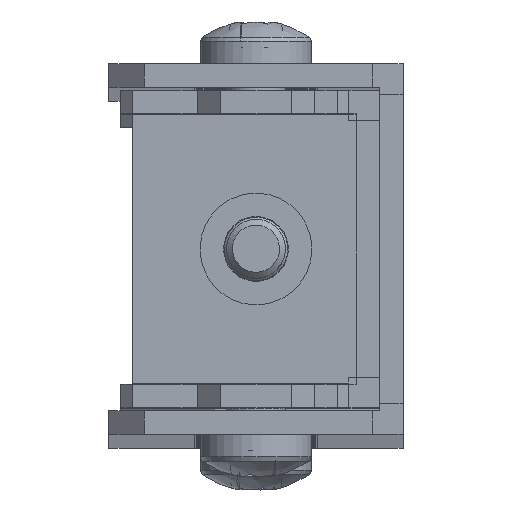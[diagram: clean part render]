
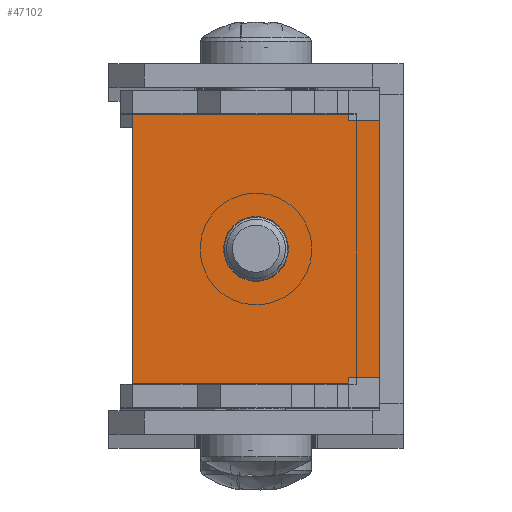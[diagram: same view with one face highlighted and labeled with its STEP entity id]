
A CAD part, top view. The second image highlights one B-rep face of the part: STEP entity #47102.
In plain terms, the highlighted planar face has unit normal (0, 0, 1) as drawn and (0, -1, 0) by its records, which use the part's own axes.
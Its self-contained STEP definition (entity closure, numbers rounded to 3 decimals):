
#46181 = VERTEX_POINT('',#46182);
#46182 = CARTESIAN_POINT('',(-10.9,-16.5,0.));
#46188 = EDGE_CURVE('',#46189,#46181,#46191,.T.);
#46189 = VERTEX_POINT('',#46190);
#46190 = CARTESIAN_POINT('',(10.9,-16.5,0.));
#46191 = LINE('',#46192,#46193);
#46192 = CARTESIAN_POINT('',(0.,-16.5,-0.));
#46193 = VECTOR('',#46194,1.);
#46194 = DIRECTION('',(-1.,0.,0.));
#47043 = VERTEX_POINT('',#47044);
#47044 = CARTESIAN_POINT('',(10.9,-16.5,-2.6));
#47059 = EDGE_CURVE('',#47043,#46189,#47060,.T.);
#47060 = LINE('',#47061,#47062);
#47061 = CARTESIAN_POINT('',(10.9,-16.5,-2.6));
#47062 = VECTOR('',#47063,1.);
#47063 = DIRECTION('',(-0.,0.,1.));
#47083 = VERTEX_POINT('',#47084);
#47084 = CARTESIAN_POINT('',(-10.9,-16.5,-2.6));
#47090 = EDGE_CURVE('',#47083,#46181,#47091,.T.);
#47091 = LINE('',#47092,#47093);
#47092 = CARTESIAN_POINT('',(-10.9,-16.5,0.));
#47093 = VECTOR('',#47094,1.);
#47094 = DIRECTION('',(0.,0.,1.));
#47102 = ADVANCED_FACE('',(#47103,#47114),#47157,.T.);
#47103 = FACE_BOUND('',#47104,.T.);
#47104 = EDGE_LOOP('',(#47105));
#47105 = ORIENTED_EDGE('',*,*,#47106,.T.);
#47106 = EDGE_CURVE('',#47107,#47107,#47109,.T.);
#47107 = VERTEX_POINT('',#47108);
#47108 = CARTESIAN_POINT('',(0.,-16.5,-7.75));
#47109 = CIRCLE('',#47110,2.75);
#47110 = AXIS2_PLACEMENT_3D('',#47111,#47112,#47113);
#47111 = CARTESIAN_POINT('',(0.,-16.5,-10.5));
#47112 = DIRECTION('',(0.,1.,0.));
#47113 = DIRECTION('',(0.,0.,1.));
#47114 = FACE_BOUND('',#47115,.T.);
#47115 = EDGE_LOOP('',(#47116,#47126,#47134,#47140,#47141,#47142,#47143,
    #47151));
#47116 = ORIENTED_EDGE('',*,*,#47117,.F.);
#47117 = EDGE_CURVE('',#47118,#47120,#47122,.T.);
#47118 = VERTEX_POINT('',#47119);
#47119 = CARTESIAN_POINT('',(11.4,-16.5,-21.));
#47120 = VERTEX_POINT('',#47121);
#47121 = CARTESIAN_POINT('',(-11.4,-16.5,-21.));
#47122 = LINE('',#47123,#47124);
#47123 = CARTESIAN_POINT('',(-10.9,-16.5,-21.));
#47124 = VECTOR('',#47125,1.);
#47125 = DIRECTION('',(-1.,0.,0.));
#47126 = ORIENTED_EDGE('',*,*,#47127,.F.);
#47127 = EDGE_CURVE('',#47128,#47118,#47130,.T.);
#47128 = VERTEX_POINT('',#47129);
#47129 = CARTESIAN_POINT('',(11.4,-16.5,-2.6));
#47130 = LINE('',#47131,#47132);
#47131 = CARTESIAN_POINT('',(11.4,-16.5,-2.6));
#47132 = VECTOR('',#47133,1.);
#47133 = DIRECTION('',(0.,0.,-1.));
#47134 = ORIENTED_EDGE('',*,*,#47135,.F.);
#47135 = EDGE_CURVE('',#47043,#47128,#47136,.T.);
#47136 = LINE('',#47137,#47138);
#47137 = CARTESIAN_POINT('',(10.9,-16.5,-2.6));
#47138 = VECTOR('',#47139,1.);
#47139 = DIRECTION('',(1.,0.,0.));
#47140 = ORIENTED_EDGE('',*,*,#47059,.T.);
#47141 = ORIENTED_EDGE('',*,*,#46188,.T.);
#47142 = ORIENTED_EDGE('',*,*,#47090,.F.);
#47143 = ORIENTED_EDGE('',*,*,#47144,.T.);
#47144 = EDGE_CURVE('',#47083,#47145,#47147,.T.);
#47145 = VERTEX_POINT('',#47146);
#47146 = CARTESIAN_POINT('',(-11.4,-16.5,-2.6));
#47147 = LINE('',#47148,#47149);
#47148 = CARTESIAN_POINT('',(-10.9,-16.5,-2.6));
#47149 = VECTOR('',#47150,1.);
#47150 = DIRECTION('',(-1.,0.,0.));
#47151 = ORIENTED_EDGE('',*,*,#47152,.T.);
#47152 = EDGE_CURVE('',#47145,#47120,#47153,.T.);
#47153 = LINE('',#47154,#47155);
#47154 = CARTESIAN_POINT('',(-11.4,-16.5,-2.6));
#47155 = VECTOR('',#47156,1.);
#47156 = DIRECTION('',(0.,0.,-1.));
#47157 = PLANE('',#47158);
#47158 = AXIS2_PLACEMENT_3D('',#47159,#47160,#47161);
#47159 = CARTESIAN_POINT('',(0.,-16.5,
    0.));
#47160 = DIRECTION('',(0.,-1.,0.));
#47161 = DIRECTION('',(0.,0.,-1.));
